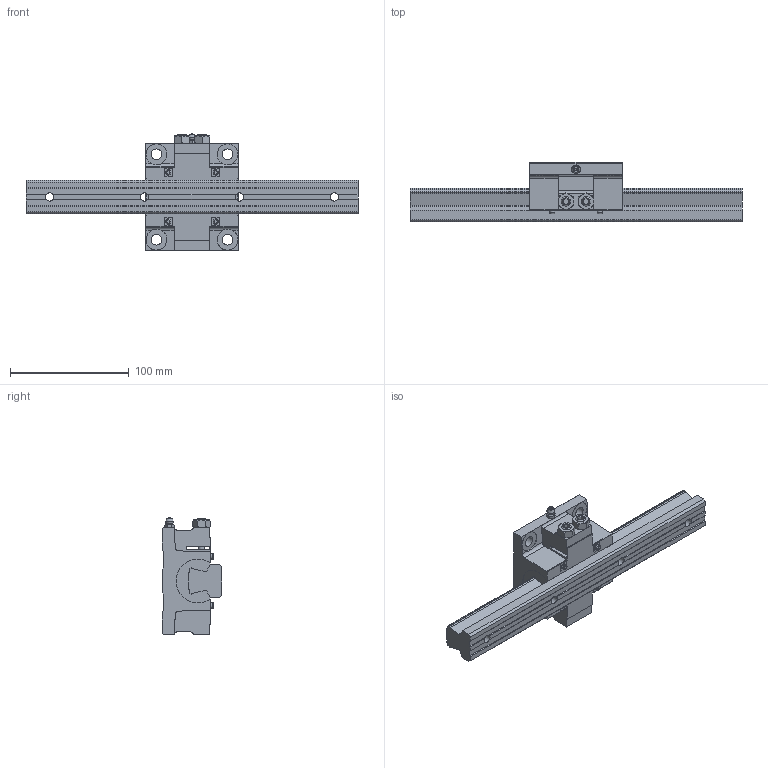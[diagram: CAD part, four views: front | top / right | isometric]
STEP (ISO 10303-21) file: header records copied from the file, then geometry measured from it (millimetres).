
FILE_DESCRIPTION(/* description */ ('STEP AP203'),/* implementation_level */ '2;1');
FILE_NAME(/* name */ 'NSR25TBC1-280L_G20_0_A-M6F_101_0_0_0',/* time_stamp */ '2024-05-21T12:12:20+02:00',/* author */ ('License CC BY-ND 4.0'),/* organization */ ('CADENAS'),/* preprocessor_version */ 'ST-DEVELOPER v19.3',/* originating_system */ 'PARTsolutions',/* authorisation */ ' ');
FILE_SCHEMA (('CONFIG_CONTROL_DESIGN'));
Length unit declared in the file: millimetre
Products named in the file (3): NSR25TBC1-280L_G20_0_A-M6F_101_0_0_0; NSR25TBC28020 Track; NSR25TBC
Assembly tree (2 placements, depth 2):
  NSR25TBC1-280L_G20_0_A-M6F_101_0_0_0
    NSR25TBC28020 Track
    NSR25TBC
Bounding box: 280 x 50 x 98.41 mm (x, y, z)
Volume: 356718 mm3; surface area: 67193.5 mm2
Topology: 2 solids, 2 shells, 252 faces, 680 edges, 445 vertices
Faces by surface type: plane 159, cylinder 52, cone 32, torus 7, sphere 2
Full cylindrical faces by diameter (mm): 4.5 x4, 5.5 x2, 7 x4, 9 x4, 11 x4, 17.6 x4
Entity records: 7759 total; most frequent: CARTESIAN_POINT 1565, ORIENTED_EDGE 1254, DIRECTION 1236, EDGE_CURVE 627, AXIS2_PLACEMENT_3D 430, VERTEX_POINT 425, LINE 376, VECTOR 376
